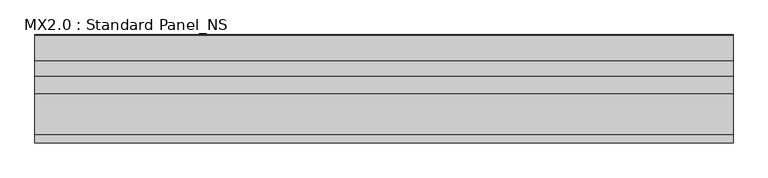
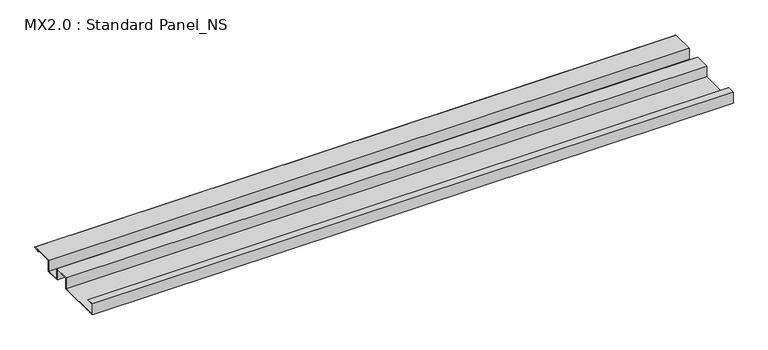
"""IFC4 building model written with IfcOpenShell, lengths in millimetres: proxy geometry, MX2.0 : Standard Panel_NS."""

from ifc_helpers import new_model, si_unit, point, frame, frame_2d, origin, place, context, project, spatial, polyline, circle_curve, trimmed, segment, composite_curve, outline, extrude, source, transform, mapped, element, save


def mx2_0_standard_panel_ns_8073d0a4(model_context):
    return source(origin(), model_context, "Body", "SweptSolid", [
        extrude(outline(composite_curve([segment(polyline([(0.0, 0.0), (25.0, 0.0), (25.0, -1.0), (1.0, -1.0), (1.0, -37.0), (149.0, -37.0), (149.0, 0.0), (201.0, 0.0), (201.0, -37.0), (249.0, -37.0), (249.0, 1.0), (325.0510156, 1.0)]), True, "CONTINUOUS"), segment(trimmed(circle_curve(frame_2d((324.3094696, -0.9153551)), 2.0538928), [point((325.0510156, 1.0))], [point((325.1748462, -2.778041))], False, "CARTESIAN"), True, "CONTINUOUS"), segment(polyline([(325.1748462, -2.778041), (308.7874714, -5.923107), (308.5989911, -4.94103), (324.8448691, -1.8231201)]), True, "CONTINUOUS"), segment(trimmed(circle_curve(frame_2d((324.3094696, -0.9153551)), 1.0538928), [point((324.8448691, -1.8231201))], [point((324.8317866, 0.0))], True, "CARTESIAN"), True, "CONTINUOUS"), segment(polyline([(324.8317866, 0.0), (250.0, 0.0), (250.0, -38.0), (200.0, -38.0), (200.0, -1.0), (150.0, -1.0), (150.0, -38.0), (0.0, -38.0), (0.0, 0.0)]), True, "CONTINUOUS")], self_intersect=False)), frame((0.0, 0.0, 0.0), z_axis=(1.0, 0.0, 0.0), x_axis=(0.0, 1.0, 0.0)), (0.0, 0.0, 1.0), 2100.0),
    ])


if __name__ == "__main__":
    model = new_model("IFC4")
    model_context = context("Model", 3, world=origin())
    ifc_project = project(units=[si_unit("LENGTHUNIT", "METRE", prefix="MILLI")], contexts=[model_context])
    site = spatial("IfcSite", under=ifc_project)
    building = spatial("IfcBuilding", under=site)
    placement = place(None, origin())
    mx2_0_standard_panel_ns_shape = mx2_0_standard_panel_ns_8073d0a4(model_context)
    element("IfcBuildingElementProxy", 1, Name="MX2.0 : Standard Panel_NS", ObjectType="MX2.0 : Standard Panel_NS", at=placement, inside=building, context=model_context, shape_type="MappedRepresentation", body=[
        mapped(mx2_0_standard_panel_ns_shape, transform((0.0, 0.0, 0.0), x_axis=(1.0, 0.0, 0.0), y_axis=(0.0, 1.0, 0.0), z_axis=(0.0, 0.0, 1.0))),
    ])
    save(model, "model.ifc")
